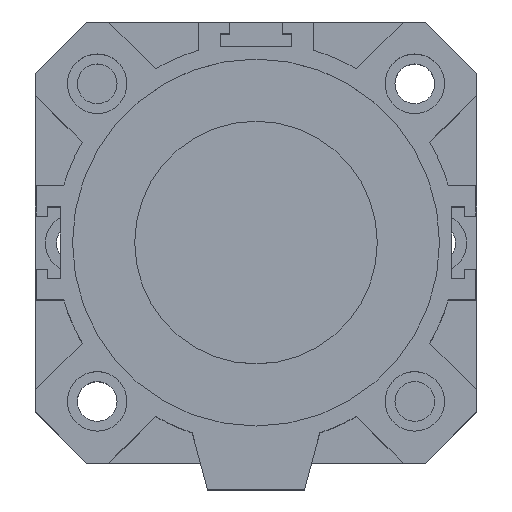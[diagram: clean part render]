
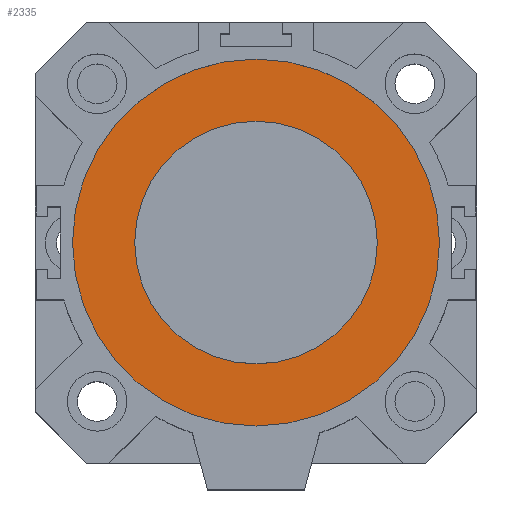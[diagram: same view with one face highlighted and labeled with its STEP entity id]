
A CAD part, top view. The second image highlights one B-rep face of the part: STEP entity #2335.
In plain terms, the highlighted planar face has unit normal (0, 0, 1).
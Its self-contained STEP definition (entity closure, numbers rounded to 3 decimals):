
#449=PLANE('',#2486);
#547=FACE_BOUND('',#766,.T.);
#548=FACE_BOUND('',#767,.T.);
#766=EDGE_LOOP('',(#1592));
#767=EDGE_LOOP('',(#1593));
#977=CIRCLE('',#2481,27.5);
#979=CIRCLE('',#2484,41.6);
#1065=VERTEX_POINT('',#3388);
#1067=VERTEX_POINT('',#3393);
#1287=EDGE_CURVE('',#1065,#1065,#977,.T.);
#1289=EDGE_CURVE('',#1067,#1067,#979,.T.);
#1592=ORIENTED_EDGE('',*,*,#1287,.F.);
#1593=ORIENTED_EDGE('',*,*,#1289,.F.);
#2335=ADVANCED_FACE('',(#547,#548),#449,.T.);
#2481=AXIS2_PLACEMENT_3D('',#3389,#2720,#2721);
#2484=AXIS2_PLACEMENT_3D('',#3394,#2726,#2727);
#2486=AXIS2_PLACEMENT_3D('',#3397,#2730,#2731);
#2720=DIRECTION('center_axis',(0.,0.,1.));
#2721=DIRECTION('ref_axis',(-1.,0.,0.));
#2726=DIRECTION('center_axis',(0.,0.,-1.));
#2727=DIRECTION('ref_axis',(-1.,0.,0.));
#2730=DIRECTION('center_axis',(0.,0.,1.));
#2731=DIRECTION('ref_axis',(1.,0.,0.));
#3388=CARTESIAN_POINT('',(27.5,0.,24.5));
#3389=CARTESIAN_POINT('Origin',(0.,0.,24.5));
#3393=CARTESIAN_POINT('',(41.6,0.,24.5));
#3394=CARTESIAN_POINT('Origin',(0.,0.,24.5));
#3397=CARTESIAN_POINT('Origin',(0.,0.,
24.5));
